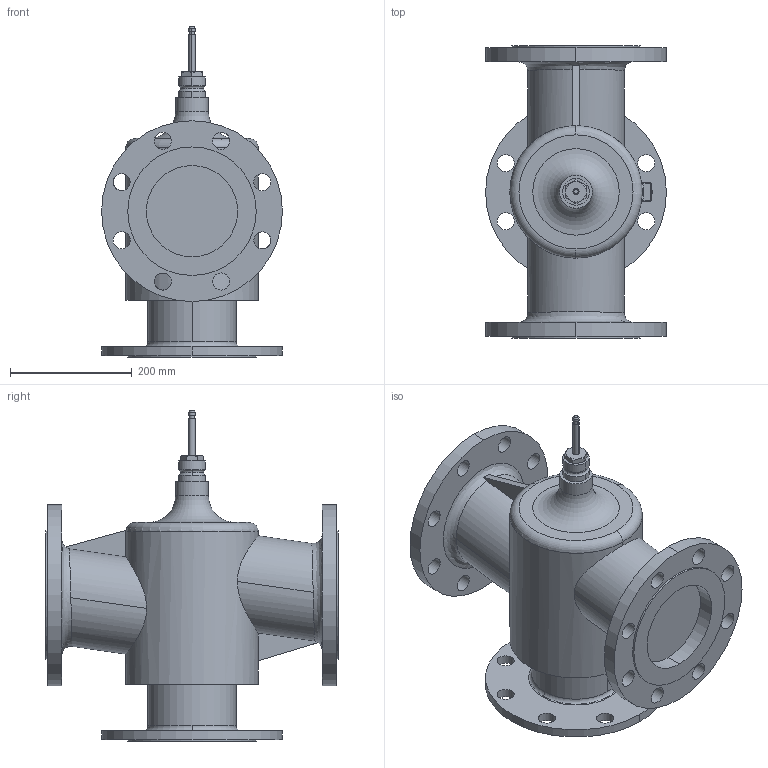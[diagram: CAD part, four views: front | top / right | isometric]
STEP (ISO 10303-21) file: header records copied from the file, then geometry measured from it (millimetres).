
FILE_DESCRIPTION(/* description */ (''),/* implementation_level */ '2;1');
FILE_NAME(/* name */ 'RAS_021854_00.stp',/* time_stamp */ '2012-11-07T08:42:10+01:00',/* author */ (''),/* organization */ (''),/* preprocessor_version */ 'ST-DEVELOPER v11',/* originating_system */ 'SIEMENS UGS NX 6.0',/* authorisation */ '');
FILE_SCHEMA (('AUTOMOTIVE_DESIGN { 1 0 10303 214 1 1 1 1 }'));
Length unit declared in the file: millimetre
Products named in the file (1): RontB30C3td8
Bounding box: 297 x 480 x 542.99 mm (x, y, z)
Volume: 19007973.3 mm3; surface area: 836401.2 mm2
Topology: 1 solids, 1 shells, 140 faces, 371 edges, 249 vertices
Faces by surface type: cylinder 73, plane 42, torus 11, bspline 6, cone 6, sphere 2
Full cylindrical faces by diameter (mm): 28 x24, 54 x1
Entity records: 5090 total; most frequent: CARTESIAN_POINT 1742, DIRECTION 705, ORIENTED_EDGE 632, EDGE_CURVE 316, AXIS2_PLACEMENT_3D 306, EDGE_LOOP 234, VERTEX_POINT 224, CIRCLE 167
